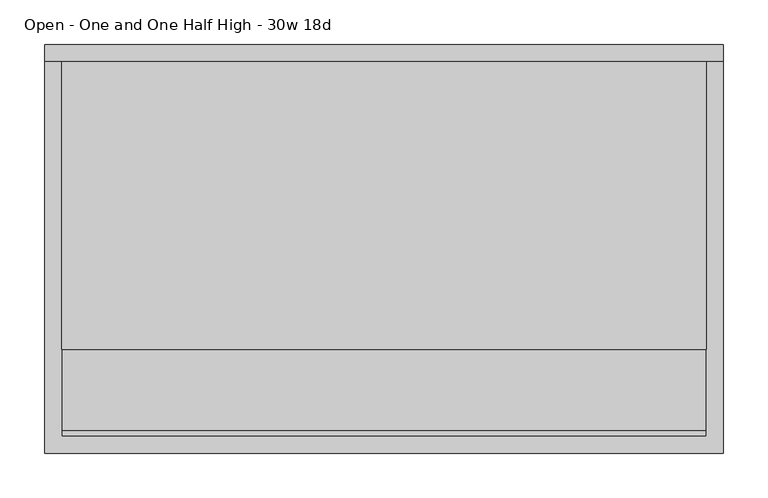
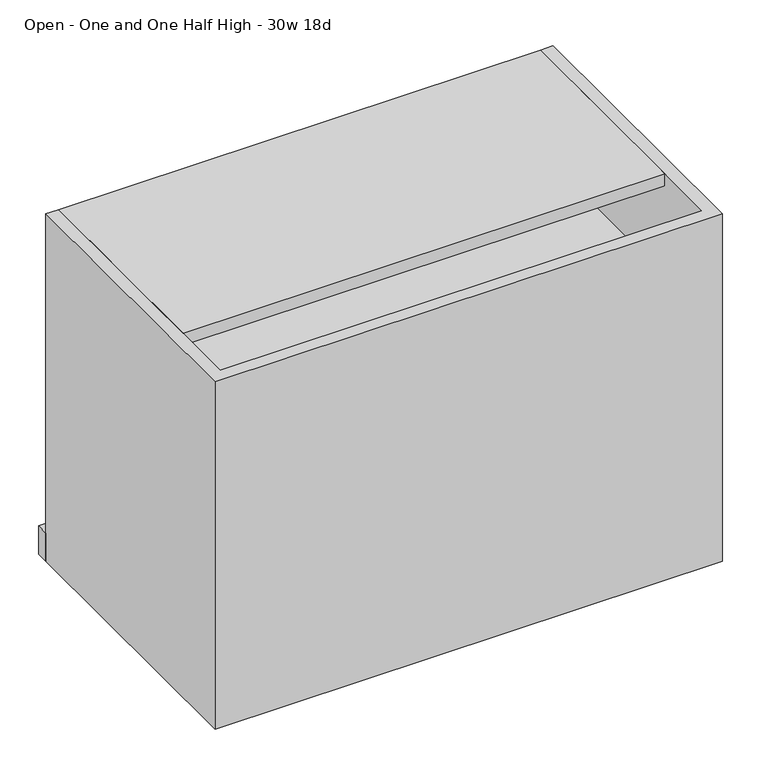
"""IFC4 building model written with IfcOpenShell, lengths in millimetres: furniture geometry, Haworth_Masters_AttachedStorage : Open - One and One Half High - 30w 18d."""

from ifc_helpers import new_model, si_unit, frame, origin, origin_with_axes, place, context, project, spatial, polyline, outline, extrude, source, transform, mapped, element, save


def open_one_and_one_half_high_30w_18d_61f46755(model_context):
    return source(origin(), model_context, "Body", "SweptSolid", [
        extrude(outline(polyline([(439.7375, 120.65), (-280.9875, 120.65), (-280.9875, 539.75), (439.7375, 539.75), (439.7375, 120.65)])), origin_with_axes(), (0.0, 0.0, 1.0), 44.45),
        extrude(outline(polyline([(439.7375, 127.0), (-280.9875, 127.0), (-280.9875, 539.75), (439.7375, 539.75), (439.7375, 127.0)])), frame((0.0, 0.0, 369.8875), z_axis=(0.0, 0.0, 1.0), x_axis=(1.0, 0.0, 0.0)), (0.0, 0.0, 1.0), 19.05),
        extrude(outline(polyline([(458.7875, 539.75), (-300.0375, 539.75), (-300.0375, 558.8), (458.7875, 558.8), (458.7875, 539.75)])), origin_with_axes(), (0.0, 0.0, 1.0), 44.45),
        extrude(outline(polyline([(439.7375, 217.4875), (-280.9875, 217.4875), (-280.9875, 539.75), (439.7375, 539.75), (439.7375, 217.4875)])), frame((0.0, 0.0, 530.225), z_axis=(0.0, 0.0, 1.0), x_axis=(1.0, 0.0, 0.0)), (0.0, 0.0, 1.0), 19.05),
        extrude(outline(polyline([(458.7875, 101.6), (-300.0375, 101.6), (-300.0375, 539.75), (-280.9875, 539.75), (-280.9875, 120.65), (439.7375, 120.65), (439.7375, 539.75), (458.7875, 539.75), (458.7875, 101.6)])), origin_with_axes(), (0.0, 0.0, 1.0), 549.275),
    ])


if __name__ == "__main__":
    model = new_model("IFC4")
    model_context = context("Model", 3, world=origin())
    ifc_project = project(units=[si_unit("LENGTHUNIT", "METRE", prefix="MILLI")], contexts=[model_context])
    site = spatial("IfcSite", under=ifc_project)
    building = spatial("IfcBuilding", under=site)
    placement = place(None, origin())
    open_one_and_one_half_high_30w_18d_shape = open_one_and_one_half_high_30w_18d_61f46755(model_context)
    element("IfcFurniture", 1, ObjectType="Haworth_Masters_AttachedStorage : Open - One and One Half High - 30w 18d", at=placement, inside=building, context=model_context, shape_type="MappedRepresentation", body=[
        mapped(open_one_and_one_half_high_30w_18d_shape, transform((0.0, 0.0, 0.0), x_axis=(1.0, 0.0, 0.0), y_axis=(0.0, 1.0, 0.0), z_axis=(0.0, 0.0, 1.0))),
    ])
    save(model, "model.ifc")
